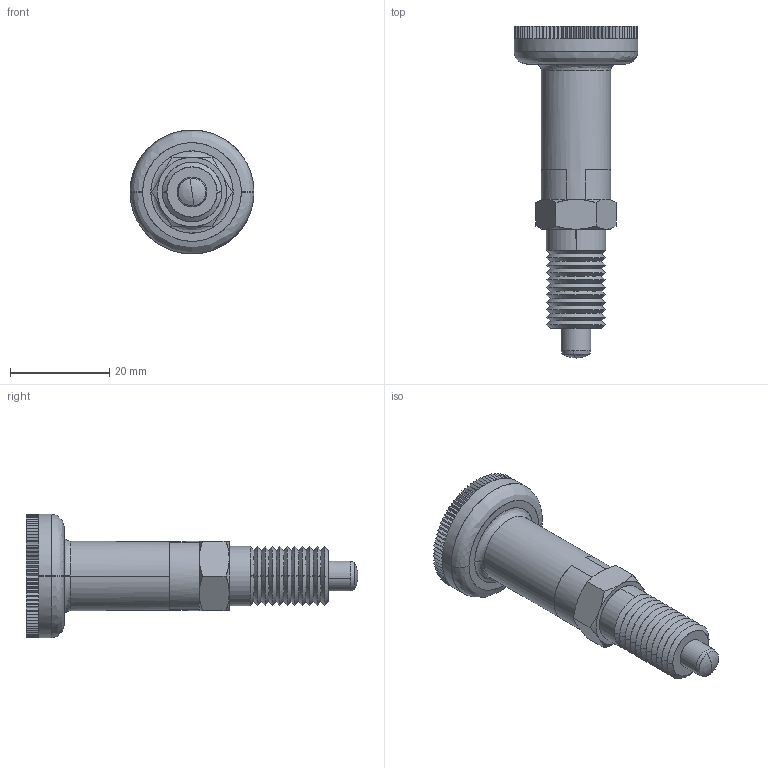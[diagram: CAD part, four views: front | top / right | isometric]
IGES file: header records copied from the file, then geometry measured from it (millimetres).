
Start section: SolidWorks IGES file using analytic representation for surfaces
Global section: file name: C:\Documents and Settings\IANO\My Documents\Wix and Auto CAD Work\CAD Models\Parametric Models\Wix Models\30000\32712_v2\32712_v2_20160414_IGES\32712.W0706.igs; native system: SolidWorks 2009; preprocessor: SolidWorks 2009; author: IANO; date: 160630.184935; units: millimetre
Bounding box: 25 x 67 x 25 mm (x, y, z)
Surface area: 6398.9 mm2 (no closed solid volume)
Topology: 0 solids, 0 shells, 399 faces, 2606 edges, 2604 vertices
Faces by surface type: bspline 315, revolution 84
